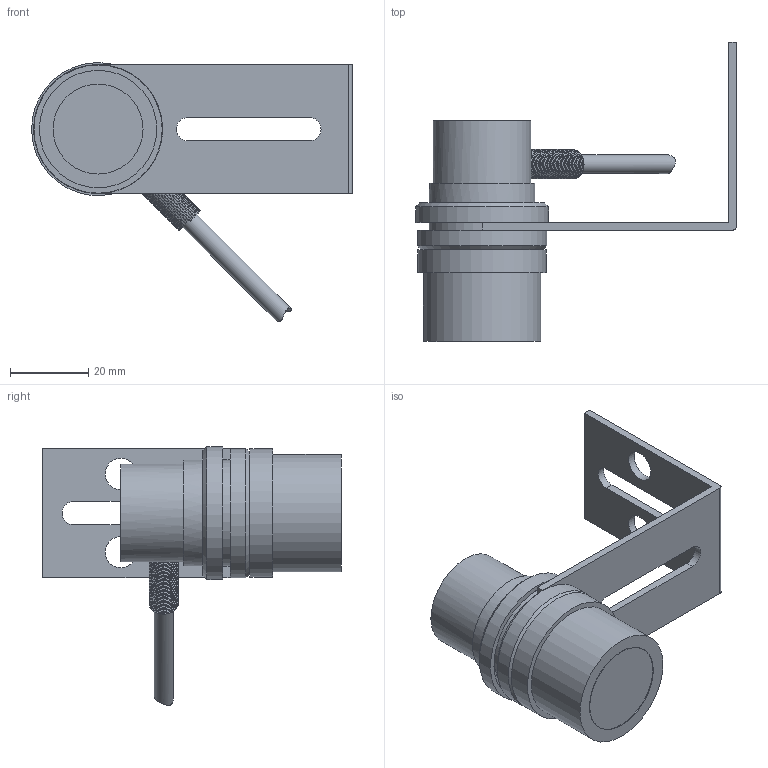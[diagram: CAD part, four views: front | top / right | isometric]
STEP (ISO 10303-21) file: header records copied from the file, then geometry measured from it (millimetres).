
FILE_DESCRIPTION (( 'STEP AP203' ), '1' );
FILE_NAME ('YIST100-1(0).STEP', '2023-03-27T00:31:31', ( '' ), ( '' ), 'SwSTEP 2.0', 'SolidWorks 2021', '' );
FILE_SCHEMA (( 'CONFIG_CONTROL_DESIGN' ));
Length unit declared in the file: millimetre
Products named in the file (1): YIST100-1(0)
Bounding box: 81.99 x 76.4 x 66.14 mm (x, y, z)
Volume: 44228.4 mm3; surface area: 17727.5 mm2
Topology: 2 solids, 3 shells, 79 faces, 174 edges, 113 vertices
Faces by surface type: plane 35, cylinder 29, bspline 12, cone 2, torus 1
Full cylindrical faces by diameter (mm): 1.1 x1, 2.4 x2, 4.8 x1, 5 x1, 6 x1, 8 x2, 8.4 x1, 23 x1, 25 x2, 27 x3, 28.6 x1, 30 x1, 31.4 x1, 32.8 x1, 33 x1, 34 x1
Entity records: 34166 total; most frequent: CARTESIAN_POINT 32540, DIRECTION 301, ORIENTED_EDGE 284, EDGE_CURVE 142, EDGE_LOOP 130, AXIS2_PLACEMENT_3D 127, VERTEX_POINT 104, FACE_OUTER_BOUND 100
